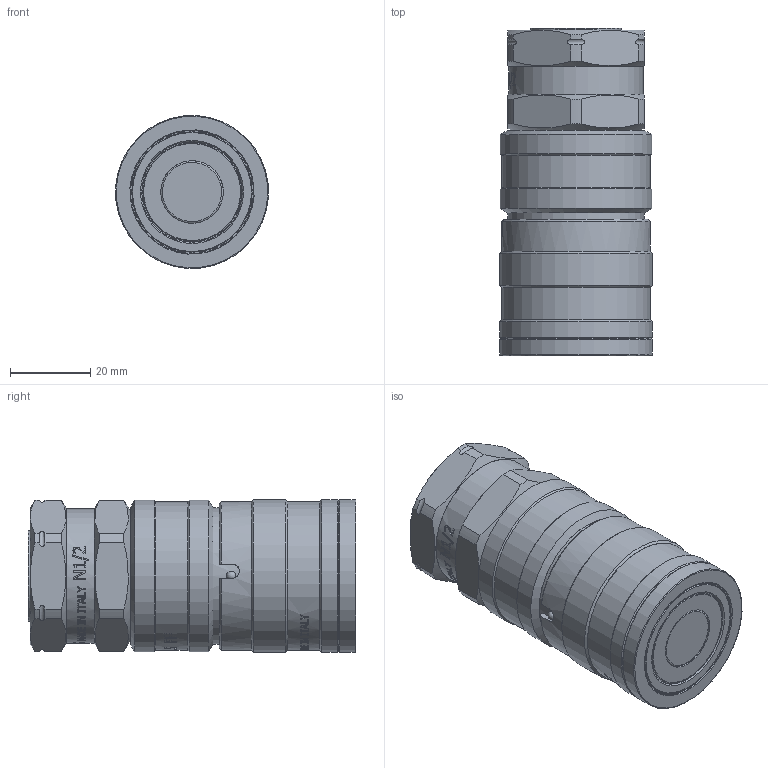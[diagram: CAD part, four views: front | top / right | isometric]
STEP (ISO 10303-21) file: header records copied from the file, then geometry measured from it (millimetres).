
FILE_DESCRIPTION(/* description */ (''),/* implementation_level */ '2;1');
FILE_NAME(/* name */ 'NC06N0300003.stp',/* time_stamp */ '2024-08-26T13:46:35+02:00',/* author */ ('thomas.belotti'),/* organization */ (''),/* preprocessor_version */ 'ST-DEVELOPER v20',/* originating_system */ 'Autodesk Inventor 2024',/* authorisation */ '');
FILE_SCHEMA (('AUTOMOTIVE_DESIGN { 1 0 10303 214 3 1 1 }'));
Products named in the file (1): Parte4
Bounding box: 38.02 x 81.58 x 38.02 mm (x, y, z)
Volume: 81318 mm3; surface area: 16103.2 mm2
Topology: 1 solids, 5 shells, 1584 faces, 4496 edges, 2988 vertices
Faces by surface type: bspline 1020, plane 413, cylinder 116, cone 22, torus 9, sphere 4
Full cylindrical faces by diameter (mm): 2.3 x2, 15.6 x1, 18 x1, 19 x1, 22.5 x1, 30 x1, 30.55 x1, 32 x1, 32.3 x1, 33.5 x1, 33.9 x1, 34.1 x1, 37 x3, 37.7 x2, 38.1 x3
Entity records: 68191 total; most frequent: CARTESIAN_POINT 32162, ORIENTED_EDGE 8992, EDGE_CURVE 4496, DIRECTION 4008, VERTEX_POINT 2988, B_SPLINE_CURVE_WITH_KNOTS 2149, LINE 1760, VECTOR 1760
